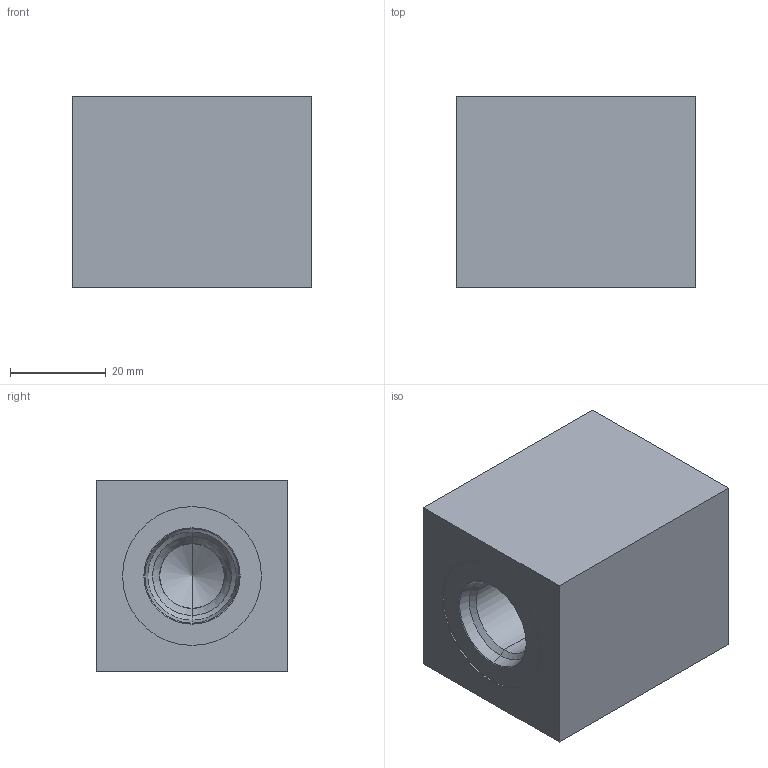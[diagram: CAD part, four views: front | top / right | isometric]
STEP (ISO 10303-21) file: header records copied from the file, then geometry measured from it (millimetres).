
FILE_DESCRIPTION (( 'STEP AP214' ), '1' );
FILE_NAME ('2.13-1001_ISO 7789–18–02–0–98.STEP', '2022-02-08T13:54:31', ( '' ), ( '' ), 'SwSTEP 2.0', 'SolidWorks 2020', '' );
FILE_SCHEMA (( 'AUTOMOTIVE_DESIGN' ));
Length unit declared in the file: millimetre
Products named in the file (1): 2.13-1001_ISO 7789–18–02–0–98
Bounding box: 50 x 40 x 40 mm (x, y, z)
Volume: 73032.7 mm3; surface area: 12796.4 mm2
Topology: 1 solids, 1 shells, 25 faces, 52 edges, 29 vertices
Faces by surface type: cone 8, plane 7, cylinder 6, torus 4
Entity records: 700 total; most frequent: DIRECTION 126, CARTESIAN_POINT 105, ORIENTED_EDGE 100, EDGE_CURVE 50, AXIS2_PLACEMENT_3D 50, VERTEX_POINT 29, EDGE_LOOP 27, LINE 26
